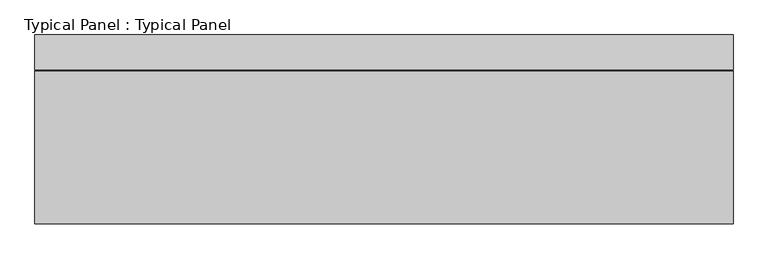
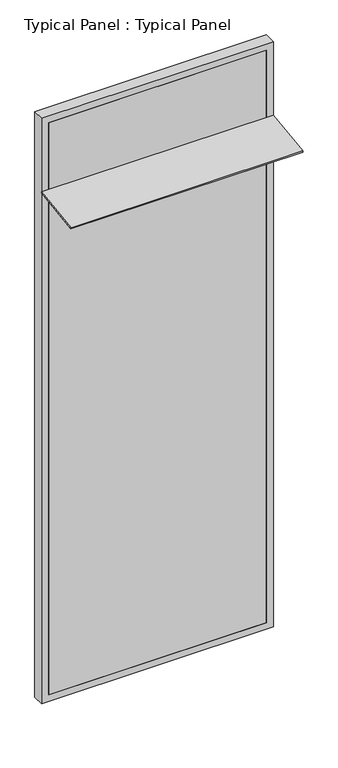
"""IFC4 building model written with IfcOpenShell, lengths in millimetres: plate geometry, Typical Panel : Typical Panel."""

from ifc_helpers import new_model, si_unit, frame, origin, place, context, project, spatial, polyline, outline, extrude, source, transform, mapped, element, save


def typical_panel_typical_panel_5af8f8b4(model_context):
    return source(origin(), model_context, "Body", "SweptSolid", [
        extrude(outline(polyline([(0.0, -330.0), (0.0, 0.0), (1500.0, 0.0), (1500.0, -330.0), (0.0, -330.0)])), frame((750.0, -330.3967317, 3444.170196), z_axis=(0.0, -0.13917310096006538, 0.9902680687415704), x_axis=(-1.0, 0.0, 0.0)), (0.0, 0.0, 1.0), 10.0),
        extrude(outline(polyline([(0.0, -750.0), (0.0, 750.0), (4000.0, 750.0), (4000.0, -750.0), (0.0, -750.0)]), holes=[polyline([(45.0, 705.0), (45.0, -705.0), (3955.0, -705.0), (3955.0, 705.0), (45.0, 705.0)])]), frame((0.0, -1.5797986, 0.0), z_axis=(0.0, 1.0, 0.0), x_axis=(0.0, 0.0, 1.0)), (0.0, 0.0, 1.0), 75.0),
        extrude(outline(polyline([(705.0, -1.5797986), (-705.0, -1.5797986), (-705.0, 13.4202014), (705.0, 13.4202014), (705.0, -1.5797986)])), frame((0.0, 0.0, 45.0), z_axis=(0.0, 0.0, 1.0), x_axis=(1.0, 0.0, 0.0)), (0.0, 0.0, 1.0), 3910.0),
    ])


if __name__ == "__main__":
    model = new_model("IFC4")
    model_context = context("Model", 3, world=origin())
    ifc_project = project(units=[si_unit("LENGTHUNIT", "METRE", prefix="MILLI")], contexts=[model_context])
    site = spatial("IfcSite", under=ifc_project)
    building = spatial("IfcBuilding", under=site)
    placement = place(None, origin())
    typical_panel_typical_panel_shape = typical_panel_typical_panel_5af8f8b4(model_context)
    element("IfcPlate", 1, ObjectType="Typical Panel : Typical Panel", at=placement, inside=building, context=model_context, shape_type="MappedRepresentation", body=[
        mapped(typical_panel_typical_panel_shape, transform((0.0, 0.0, 0.0), x_axis=(1.0, 0.0, 0.0), y_axis=(0.0, 1.0, 0.0), z_axis=(0.0, 0.0, 1.0))),
    ])
    save(model, "model.ifc")
